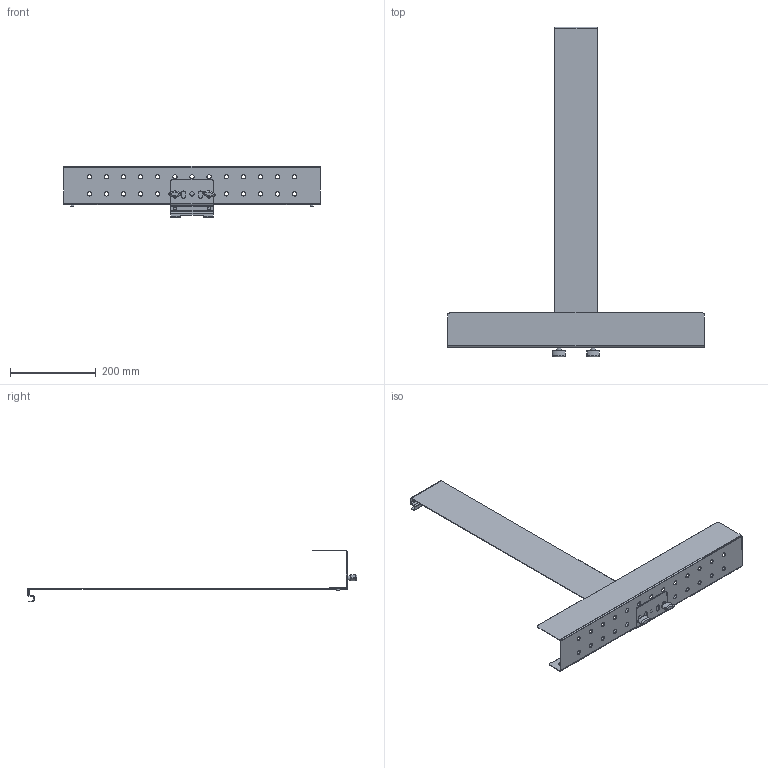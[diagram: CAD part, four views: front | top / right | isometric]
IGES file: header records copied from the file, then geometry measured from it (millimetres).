
Global section: file name: Półka na kabine prysznicową LOGAN 60 cm,22; native system: HAutodesk Inventor 2018; preprocessor: unknown; author: Verical; date: 20210519.135149; units: millimetre
Bounding box: 600 x 771.4 x 121 mm (x, y, z)
Volume: 360473.9 mm3; surface area: 405001.6 mm2
Topology: 1 solids, 3 shells, 219 faces, 556 edges, 340 vertices
Faces by surface type: bspline 219
